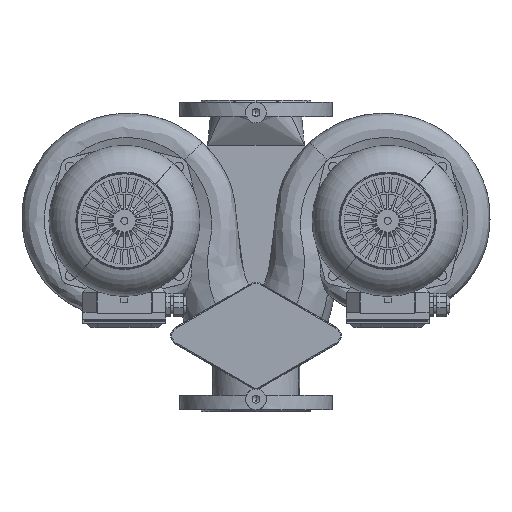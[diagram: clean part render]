
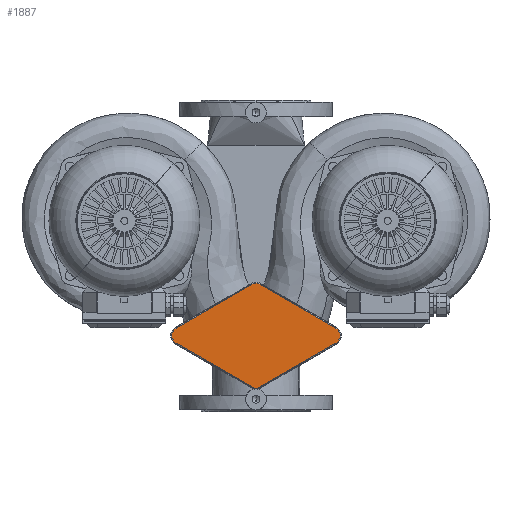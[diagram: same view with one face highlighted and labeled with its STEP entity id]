
A CAD part, top view. The second image highlights one B-rep face of the part: STEP entity #1887.
In plain terms, the highlighted planar face has unit normal (0, 0, 1).
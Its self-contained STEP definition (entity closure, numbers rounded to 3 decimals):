
#1887=ADVANCED_FACE('',(#3826),#3827,.T.);
#3826=FACE_OUTER_BOUND('',#10101,.T.);
#3827=PLANE('',#10102);
#10101=EDGE_LOOP('',(#17558,#17559,#17560,#17561,#17562,#17563,#17564,#17565,#17566,#17567,#17568,#17569));
#10102=AXIS2_PLACEMENT_3D('',#17570,#17571,#17572);
#17558=ORIENTED_EDGE('',*,*,#22348,.F.);
#17559=ORIENTED_EDGE('',*,*,#23062,.F.);
#17560=ORIENTED_EDGE('',*,*,#23049,.F.);
#17561=ORIENTED_EDGE('',*,*,#22359,.F.);
#17562=ORIENTED_EDGE('',*,*,#22363,.F.);
#17563=ORIENTED_EDGE('',*,*,#23045,.F.);
#17564=ORIENTED_EDGE('',*,*,#22369,.F.);
#17565=ORIENTED_EDGE('',*,*,#22373,.F.);
#17566=ORIENTED_EDGE('',*,*,#23041,.F.);
#17567=ORIENTED_EDGE('',*,*,#22378,.F.);
#17568=ORIENTED_EDGE('',*,*,#22352,.F.);
#17569=ORIENTED_EDGE('',*,*,#23060,.F.);
#17570=CARTESIAN_POINT('',(7.,240.124,65.0));
#17571=DIRECTION('',(0.0,0.0,1.0));
#17572=DIRECTION('',(1.0,0.0,0.0));
#22348=EDGE_CURVE('',#35722,#35724,#35725,.T.);
#22352=EDGE_CURVE('',#35728,#35731,#35732,.T.);
#22359=EDGE_CURVE('',#35742,#35744,#35745,.T.);
#22363=EDGE_CURVE('',#35748,#35742,#35751,.T.);
#22369=EDGE_CURVE('',#35759,#35761,#35762,.T.);
#22373=EDGE_CURVE('',#35765,#35759,#35768,.T.);
#22378=EDGE_CURVE('',#35731,#35775,#35776,.T.);
#23041=EDGE_CURVE('',#35775,#35765,#36680,.T.);
#23045=EDGE_CURVE('',#35761,#35748,#36684,.T.);
#23049=EDGE_CURVE('',#35744,#36688,#36689,.T.);
#23060=EDGE_CURVE('',#35724,#35728,#36703,.T.);
#23062=EDGE_CURVE('',#36688,#35722,#36705,.T.);
#35722=VERTEX_POINT('',#40944);
#35724=VERTEX_POINT('',#40957);
#35725=LINE('',#40958,#40959);
#35728=VERTEX_POINT('',#40962);
#35731=VERTEX_POINT('',#40965);
#35732=CIRCLE('',#40966,12.5);
#35742=VERTEX_POINT('',#40977);
#35744=VERTEX_POINT('',#40979);
#35745=LINE('',#40980,#40981);
#35748=VERTEX_POINT('',#40993);
#35751=CIRCLE('',#40996,12.5);
#35759=VERTEX_POINT('',#41005);
#35761=VERTEX_POINT('',#41007);
#35762=LINE('',#41008,#41009);
#35765=VERTEX_POINT('',#41012);
#35768=CIRCLE('',#41015,12.5);
#35775=VERTEX_POINT('',#41023);
#35776=LINE('',#41024,#41025);
#36680=CIRCLE('',#43791,12.5);
#36684=CIRCLE('',#43795,12.5);
#36688=VERTEX_POINT('',#43808);
#36689=CIRCLE('',#43809,14.0);
#36703=CIRCLE('',#43827,12.5);
#36705=CIRCLE('',#43829,14.0);
#40944=CARTESIAN_POINT('',(0.79,241.978,65.0));
#40957=CARTESIAN_POINT('',(115.25,175.894,65.0));
#40958=CARTESIAN_POINT('',(6.25,238.825,65.0));
#40959=VECTOR('',#50764,1.0);
#40962=CARTESIAN_POINT('',(121.5,165.069,65.0));
#40965=CARTESIAN_POINT('',(115.25,154.244,65.0));
#40966=AXIS2_PLACEMENT_3D('',#50771,#50772,#50773);
#40977=CARTESIAN_POINT('',(-115.25,175.894,65.0));
#40979=CARTESIAN_POINT('',(-0.79,241.978,65.0));
#40980=CARTESIAN_POINT('',(-55.5,210.391,65.0));
#40981=VECTOR('',#50787,1.);
#40993=CARTESIAN_POINT('',(-121.5,165.069,65.0));
#40996=AXIS2_PLACEMENT_3D('',#50791,#50792,#50793);
#41005=CARTESIAN_POINT('',(-6.25,91.312,65.0));
#41007=CARTESIAN_POINT('',(-115.25,154.244,65.0));
#41008=CARTESIAN_POINT('',(-33.5,107.045,65.0));
#41009=VECTOR('',#50804,1.);
#41012=CARTESIAN_POINT('',(0.,89.638,65.0));
#41015=AXIS2_PLACEMENT_3D('',#50811,#50812,#50813);
#41023=CARTESIAN_POINT('',(6.25,91.312,65.0));
#41024=CARTESIAN_POINT('',(93.25,141.542,65.0));
#41025=VECTOR('',#50821,1.0);
#43791=AXIS2_PLACEMENT_3D('',#51259,#51260,#51261);
#43795=AXIS2_PLACEMENT_3D('',#51265,#51266,#51267);
#43808=CARTESIAN_POINT('',(0.,242.0,65.0));
#43809=AXIS2_PLACEMENT_3D('',#51268,#51269,#51270);
#43827=AXIS2_PLACEMENT_3D('',#51284,#51285,#51286);
#43829=AXIS2_PLACEMENT_3D('',#51287,#51288,#51289);
#50764=DIRECTION('',(0.866,-0.5,0.0));
#50771=CARTESIAN_POINT('',(109.0,165.069,65.0));
#50772=DIRECTION('',(0.0,0.0,-1.0));
#50773=DIRECTION('',(1.0,0.0,0.0));
#50787=DIRECTION('',(0.866,0.5,0.0));
#50791=CARTESIAN_POINT('',(-109.0,165.069,65.0));
#50792=DIRECTION('',(0.0,0.0,-1.0));
#50793=DIRECTION('',(-1.0,0.0,0.0));
#50804=DIRECTION('',(-0.866,0.5,0.0));
#50811=CARTESIAN_POINT('',(0.,102.138,65.0));
#50812=DIRECTION('',(0.0,0.0,-1.0));
#50813=DIRECTION('',(0.,-1.0,0.0));
#50821=DIRECTION('',(-0.866,-0.5,0.0));
#51259=CARTESIAN_POINT('',(0.,102.138,65.0));
#51260=DIRECTION('',(0.0,0.0,-1.0));
#51261=DIRECTION('',(0.,-1.0,0.0));
#51265=CARTESIAN_POINT('',(-109.0,165.069,65.0));
#51266=DIRECTION('',(0.0,0.0,-1.0));
#51267=DIRECTION('',(-1.0,0.0,0.0));
#51268=CARTESIAN_POINT('',(0.,228.0,65.0));
#51269=DIRECTION('',(0.0,0.0,-1.0));
#51270=DIRECTION('',(0.5,0.866,0.0));
#51284=CARTESIAN_POINT('',(109.0,165.069,65.0));
#51285=DIRECTION('',(0.0,0.0,-1.0));
#51286=DIRECTION('',(1.0,0.0,0.0));
#51287=CARTESIAN_POINT('',(0.,228.0,65.0));
#51288=DIRECTION('',(0.0,0.0,-1.0));
#51289=DIRECTION('',(0.5,0.866,0.0));
